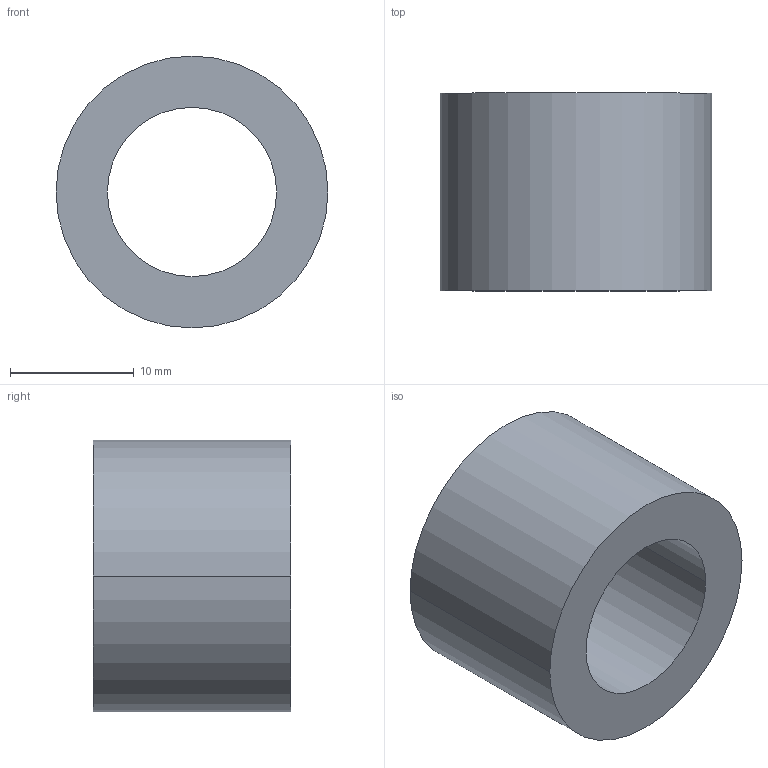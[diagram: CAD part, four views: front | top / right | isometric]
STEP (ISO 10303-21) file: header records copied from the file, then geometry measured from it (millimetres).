
FILE_DESCRIPTION (( 'STEP AP203' ), '1' );
FILE_NAME ('30800.WPP22F13.7.step', '2019-01-23T22:42:07', ( '' ), ( '' ), 'SwSTEP 2.0', 'SolidWorks 2017', '' );
FILE_SCHEMA (( 'CONFIG_CONTROL_DESIGN' ));
Length unit declared in the file: millimetre
Products named in the file (1): 30800.WPP22F13.7
Bounding box: 22 x 16 x 22 mm (x, y, z)
Volume: 3684.2 mm3; surface area: 2224.8 mm2
Topology: 1 solids, 1 shells, 8 faces, 16 edges, 10 vertices
Faces by surface type: cylinder 4, torus 2, plane 2
Entity records: 297 total; most frequent: DIRECTION 46, CARTESIAN_POINT 35, ORIENTED_EDGE 32, AXIS2_PLACEMENT_3D 21, EDGE_CURVE 16, CIRCLE 12, EDGE_LOOP 10, VERTEX_POINT 10
